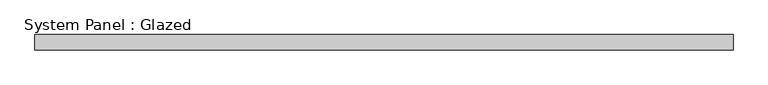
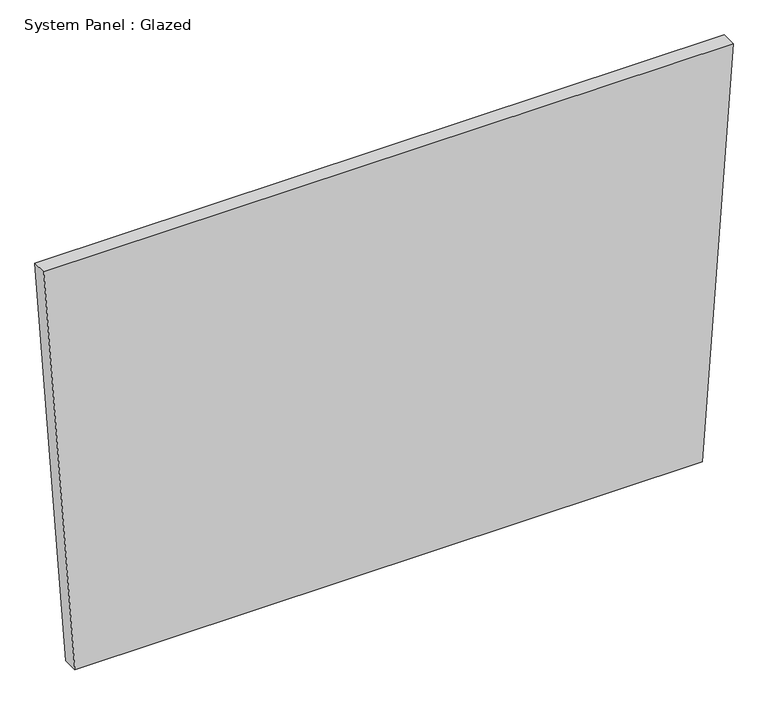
"""IFC4 building model written with IfcOpenShell, lengths in millimetres: plate geometry, System Panel : Glazed."""

import ifcopenshell
import ifcopenshell.guid

model = None  # the IFC model being written
_history = None  # IfcOwnerHistory: only IFC2X3 demands one
_inside = {}  # id of a spatial element -> (the spatial element, [elements in it])
_under = {}  # id of a project, library or spatial element -> (it, [spatial elements below it])
_declared = {}  # id of a project -> (the project, [libraries it declares])
_typed = {}  # id of a type object -> (the type object, [elements of that type])
_made_of = {}  # id of a material, layer set ... -> (it, [elements and type objects made of it])


def new_model(schema):
    """Start an empty IFC model of exactly this schema.

    Asked for "IFC4X3", IfcOpenShell would pick the latest addendum, in which some entities
    have other attributes; the version numbers below select the first issue.
    IFC2X3 requires an IfcOwnerHistory on every rooted entity: one is made here for all.
    """
    global model, _history
    if schema == "IFC4X3":
        model = ifcopenshell.file(schema_version=(4, 3, 0, 0))
    else:
        model = ifcopenshell.file(schema=schema)
    _inside.clear()
    _under.clear()
    _declared.clear()
    _typed.clear()
    _made_of.clear()
    _history = None
    if model.schema == "IFC2X3":
        org = make("IfcOrganization", Name="unknown")
        user = make(
            "IfcPersonAndOrganization",
            ThePerson=make("IfcPerson", FamilyName="unknown"),
            TheOrganization=org,
        )
        app = make(
            "IfcApplication",
            ApplicationDeveloper=org,
            Version="unknown",
            ApplicationFullName="unknown",
            ApplicationIdentifier="unknown",
        )
        _history = make(
            "IfcOwnerHistory",
            OwningUser=user,
            OwningApplication=app,
            ChangeAction="ADDED",
            CreationDate=0,
        )
    return model


def make(cls, **values):
    """One entity of the class cls with the attributes given. An attribute that is None is left unset."""
    return model.create_entity(
        cls, **{name: value for name, value in values.items() if value is not None}
    )


def rooted(cls, **values):
    """An entity with a GlobalId (a new one), such as an element, a storey or a relation."""
    return make(cls, GlobalId=ifcopenshell.guid.new(), OwnerHistory=_history, **values)


def si_unit(unit_type, name, prefix=None):
    """IfcSIUnit, for example si_unit("LENGTHUNIT", "METRE", prefix="MILLI")."""
    return make("IfcSIUnit", UnitType=unit_type, Prefix=prefix, Name=name)


def assignment(units):
    """IfcUnitAssignment: the units of a project."""
    return None if units is None else make("IfcUnitAssignment", Units=units)


def point(xyz):
    """IfcCartesianPoint."""
    return None if xyz is None else make("IfcCartesianPoint", Coordinates=xyz)


def direction(xyz):
    """IfcDirection."""
    return None if xyz is None else make("IfcDirection", DirectionRatios=xyz)


def frame(location, z_axis=None, x_axis=None):
    """IfcAxis2Placement3D, a coordinate frame: its origin and axes. An axis left out is left unset."""
    return make(
        "IfcAxis2Placement3D",
        Location=point(location),
        Axis=direction(z_axis),
        RefDirection=direction(x_axis),
    )


def origin():
    """The frame at (0, 0, 0) with its axes left unset."""
    return frame((0.0, 0.0, 0.0))


def place(relative_to, where):
    """IfcLocalPlacement: puts the frame where relative to a parent placement (None: the world)."""
    return make(
        "IfcLocalPlacement", PlacementRelTo=relative_to, RelativePlacement=where
    )


def context(
    kind, dimensions, precision=None, world=None, true_north=None, identifier=None
):
    """IfcGeometricRepresentationContext, for example the 3D "Model" context."""
    return make(
        "IfcGeometricRepresentationContext",
        ContextIdentifier=identifier,
        ContextType=kind,
        CoordinateSpaceDimension=dimensions,
        Precision=precision,
        WorldCoordinateSystem=world,
        TrueNorth=true_north,
    )


def project(units=None, contexts=None):
    """IfcProject with its units and contexts."""
    return rooted(
        "IfcProject",
        Name="project",
        RepresentationContexts=contexts,
        UnitsInContext=assignment(units),
    )


def spatial(cls, under=None, at=None, **own):
    """A site, building, storey or space (cls), placed at a placement, below another one or the project."""
    s = rooted(cls, ObjectPlacement=at, **own)
    if under is not None:
        _under.setdefault(under.id(), (under, []))[1].append(s)
    return s


def polyline(points):
    """IfcPolyline through the points."""
    return make("IfcPolyline", Points=[point(p) for p in points])


def outline(outer, holes=None, kind="AREA"):
    """IfcArbitraryClosedProfileDef: a profile drawn as a closed curve; with holes, ...WithVoids."""
    if holes is None:
        return make("IfcArbitraryClosedProfileDef", ProfileType=kind, OuterCurve=outer)
    return make(
        "IfcArbitraryProfileDefWithVoids",
        ProfileType=kind,
        OuterCurve=outer,
        InnerCurves=holes,
    )


def extrude(swept, where, along, depth):
    """IfcExtrudedAreaSolid: the profile swept, set in the frame where, extruded along a direction by depth."""
    return make(
        "IfcExtrudedAreaSolid",
        SweptArea=swept,
        Position=where,
        ExtrudedDirection=direction(along),
        Depth=depth,
    )


def shape(context_of_items, identifier, shape_type, items):
    """IfcShapeRepresentation: the items that make up one representation, for example the "Body"."""
    return make(
        "IfcShapeRepresentation",
        ContextOfItems=context_of_items,
        RepresentationIdentifier=identifier,
        RepresentationType=shape_type,
        Items=items,
    )


def source(mapping_origin, context_of_items, identifier, shape_type, items):
    """IfcRepresentationMap: a shape defined once, which mapped items show again and again."""
    return make(
        "IfcRepresentationMap",
        MappingOrigin=mapping_origin,
        MappedRepresentation=shape(context_of_items, identifier, shape_type, items),
    )


def transform(
    local_origin,
    x_axis=None,
    y_axis=None,
    z_axis=None,
    scale=None,
    scale2=None,
    scale3=None,
    uniform=True,
):
    """IfcCartesianTransformationOperator3D, or its non-uniform kind. x_axis, y_axis, z_axis: its Axis1, 2, 3."""
    if uniform:
        return make(
            "IfcCartesianTransformationOperator3D",
            Axis1=direction(x_axis),
            Axis2=direction(y_axis),
            LocalOrigin=point(local_origin),
            Scale=scale,
            Axis3=direction(z_axis),
        )
    return make(
        "IfcCartesianTransformationOperator3DnonUniform",
        Axis1=direction(x_axis),
        Axis2=direction(y_axis),
        LocalOrigin=point(local_origin),
        Scale=scale,
        Axis3=direction(z_axis),
        Scale2=scale2,
        Scale3=scale3,
    )


def mapped(mapping_source, mapping_target):
    """IfcMappedItem: shows the shape of a source again, moved by a transform."""
    return make(
        "IfcMappedItem", MappingSource=mapping_source, MappingTarget=mapping_target
    )


def made_of(thing, what):
    """Note that an element or type object is made of a material, layer set ...; save() writes the relation."""
    if what is not None:
        _made_of.setdefault(what.id(), (what, []))[1].append(thing)
    return thing


def element(
    cls,
    number,
    at=None,
    inside=None,
    cuts=None,
    type_object=None,
    material=None,
    context=None,
    identifier="Body",
    shape_type=None,
    held_by="IfcProductDefinitionShape",
    body=None,
    shapes=None,
    **own,
):
    """One element of the class cls, such as IfcWall. Its Tag is "e" and its number.

    at: its placement. inside: the storey or other place that contains it. cuts: it is an
    opening in that element (IfcRelVoidsElement). A single representation is given by context,
    identifier, shape_type and body (its items); several are given by shapes. held_by: the class
    of the entity that holds the representations. save() writes the other relations.
    """
    e = rooted(cls, Tag="e%d" % number, ObjectPlacement=at, **own)
    if body is not None:
        shapes = [shape(context, identifier, shape_type, body)]
    if shapes is not None:
        e.Representation = make(held_by, Representations=shapes)
    if inside is not None:
        _inside.setdefault(inside.id(), (inside, []))[1].append(e)
    if cuts is not None:
        rooted(
            "IfcRelVoidsElement", RelatingBuildingElement=cuts, RelatedOpeningElement=e
        )
    if type_object is not None:
        _typed.setdefault(type_object.id(), (type_object, []))[1].append(e)
    return made_of(e, material)


def aggregate(whole, parts):
    """IfcRelAggregates: a whole, such as a stair, and the parts it consists of."""
    return rooted("IfcRelAggregates", RelatingObject=whole, RelatedObjects=parts)


def save(model, path):
    """Write the relations noted so far, then the file.

    IfcRelAggregates (storeys below a building ...), IfcRelContainedInSpatialStructure (elements
    in a storey), IfcRelDefinesByType, IfcRelAssociatesMaterial and IfcRelDeclares: one each for
    every whole, place, type object, material and project.
    """
    for whole, parts in _under.values():
        aggregate(whole, parts)
    for where, things in _inside.values():
        rooted(
            "IfcRelContainedInSpatialStructure",
            RelatedElements=things,
            RelatingStructure=where,
        )
    for kind, things in _typed.values():
        rooted("IfcRelDefinesByType", RelatedObjects=things, RelatingType=kind)
    for what, things in _made_of.values():
        rooted("IfcRelAssociatesMaterial", RelatedObjects=things, RelatingMaterial=what)
    for by, libraries in _declared.values():
        rooted("IfcRelDeclares", RelatingContext=by, RelatedDefinitions=libraries)
    model.write(path)


def system_panel_glazed_b72a6657(model_context):
    return source(origin(), model_context, "Body", "SweptSolid", [
        extrude(outline(polyline([(0.0, -525.7399828), (0.0, 525.7405306), (723.0214987, 577.7478158), (723.0291151, -577.7478158), (0.0, -525.7399828)])), frame((0.0, 19.05, 0.0), z_axis=(0.0, 1.0, 0.0), x_axis=(0.0, 0.0, 1.0)), (0.0, 0.0, 1.0), 25.4),
    ])


if __name__ == "__main__":
    model = new_model("IFC4")
    model_context = context("Model", 3, world=origin())
    ifc_project = project(units=[si_unit("LENGTHUNIT", "METRE", prefix="MILLI")], contexts=[model_context])
    site = spatial("IfcSite", under=ifc_project)
    building = spatial("IfcBuilding", under=site)
    placement = place(None, origin())
    system_panel_glazed_shape = system_panel_glazed_b72a6657(model_context)
    element("IfcPlate", 1, ObjectType="System Panel : Glazed", at=placement, inside=building, context=model_context, shape_type="MappedRepresentation", body=[
        mapped(system_panel_glazed_shape, transform((0.0, 0.0, 0.0), x_axis=(1.0, 0.0, 0.0), y_axis=(0.0, 1.0, 0.0), z_axis=(0.0, 0.0, 1.0))),
    ])
    save(model, "model.ifc")
